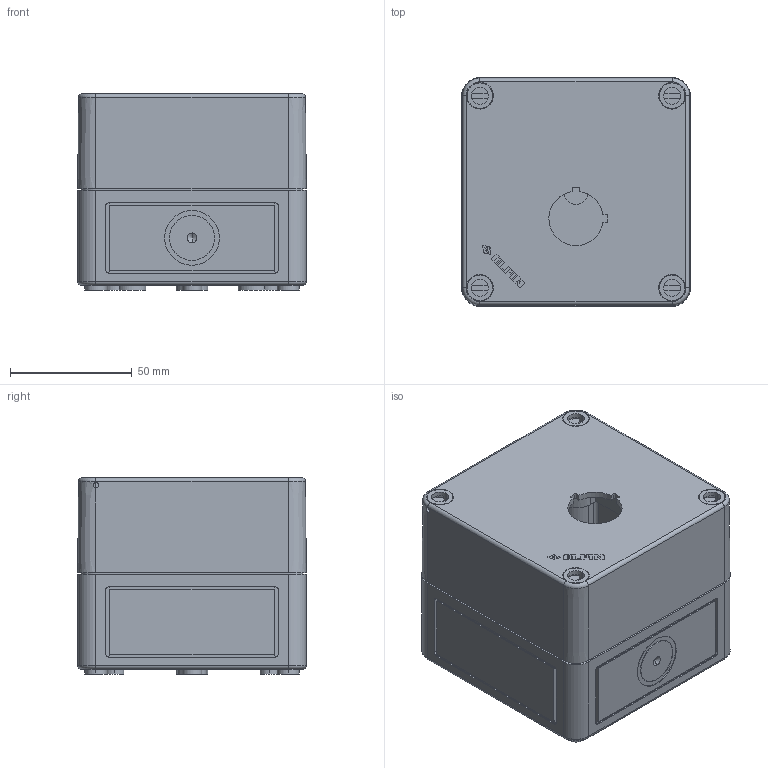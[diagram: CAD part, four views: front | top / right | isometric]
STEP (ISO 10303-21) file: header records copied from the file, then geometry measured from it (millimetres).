
FILE_DESCRIPTION (( 'STEP AP214' ), '1' );
FILE_NAME ('080C0909-8P1.STEP', '2018-08-30T09:01:22', ( '' ), ( '' ), 'SwSTEP 2.0', 'SolidWorks 2013', '' );
FILE_SCHEMA (( 'AUTOMOTIVE_DESIGN' ));
Length unit declared in the file: millimetre
Products named in the file (1): 080C0909-8P1
Bounding box: 94 x 94 x 80.71 mm (x, y, z)
Volume: 156443.7 mm3; surface area: 112079.7 mm2
Topology: 12 solids, 12 shells, 887 faces, 2251 edges, 1471 vertices
Faces by surface type: plane 575, cylinder 222, cone 74, torus 16
Entity records: 32338 total; most frequent: CARTESIAN_POINT 5295, DIRECTION 4522, ORIENTED_EDGE 4498, EDGE_CURVE 2249, AXIS2_PLACEMENT_3D 1578, VERTEX_POINT 1471, VECTOR 1366, LINE 1366
